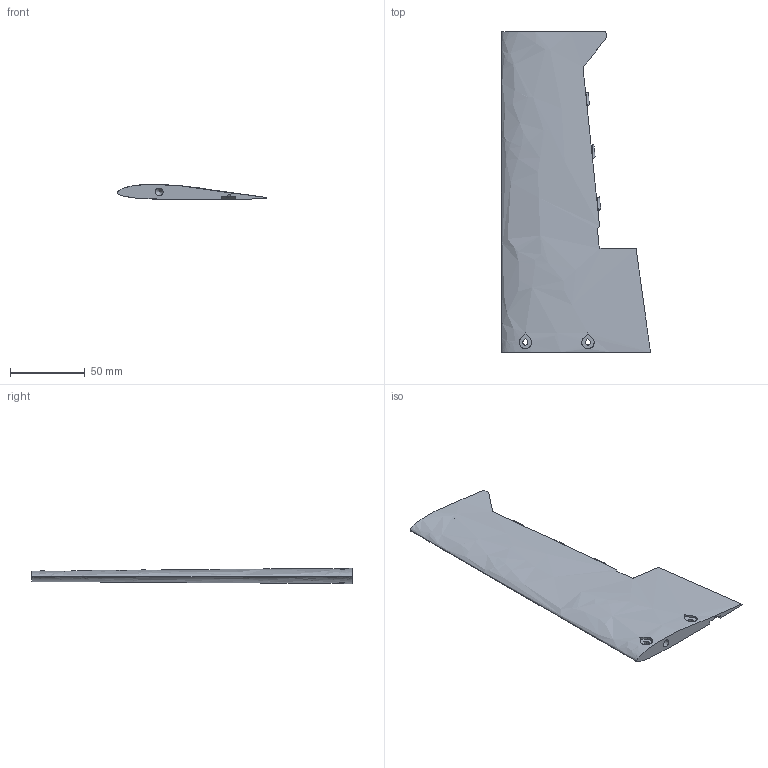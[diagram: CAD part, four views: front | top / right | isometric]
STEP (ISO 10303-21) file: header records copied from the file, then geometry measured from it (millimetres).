
FILE_DESCRIPTION(('SkyG Speed 90B - revision C6B-12 - 2026-10-11','WR-wing-right'),'2;1');
FILE_NAME('WR-wing-right_C6B-12','2026-10-11T16:48:43',('Author'),( 'Open CASCADE'),'Open CASCADE STEP processor 7.9','Open CASCADE 7.9' ,'Unknown');
FILE_SCHEMA(('AUTOMOTIVE_DESIGN { 1 0 10303 214 1 1 1 1 }'));
Length unit declared in the file: millimetre
Products named in the file (1): WR-wing-right C6B-12
Bounding box: 99.95 x 215 x 10.14 mm (x, y, z)
Volume: 92435.3 mm3; surface area: 37558.2 mm2
Topology: 1 solids, 1 shells, 102 faces, 315 edges, 216 vertices
Faces by surface type: plane 83, cylinder 14, bspline 3, cone 2
Full cylindrical faces by diameter (mm): 1.6 x4, 2.2 x1, 5.2 x1
Entity records: 14801 total; most frequent: CARTESIAN_POINT 9208, DIRECTION 842, ORIENTED_EDGE 630, PCURVE 630, DEFINITIONAL_REPRESENTATION 630, B_SPLINE_CURVE_WITH_KNOTS 393, LINE 344, VECTOR 344
